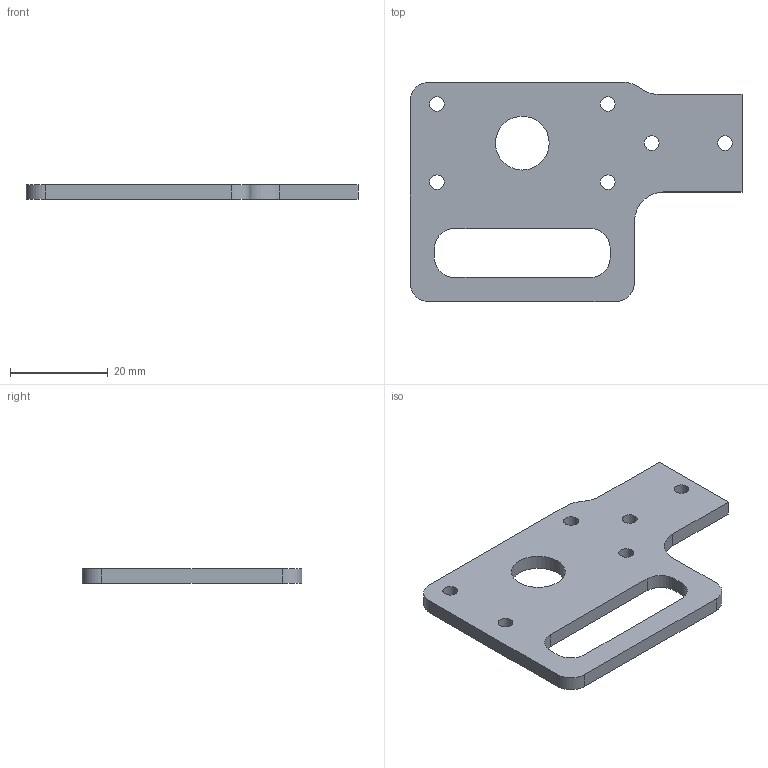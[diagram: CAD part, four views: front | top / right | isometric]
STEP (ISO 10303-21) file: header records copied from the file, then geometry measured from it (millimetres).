
FILE_DESCRIPTION(/* description */ (''),/* implementation_level */ '2;1');
FILE_NAME(/* name */ 'C:/Users/Ulises/Desktop/T1/mecanica_cad/soporte_stepper_polea.step',/* time_stamp */ '2020-10-16T01:28:37-03:00',/* author */ (''),/* organization */ (''),/* preprocessor_version */ 'ST-DEVELOPER v18.1',/* originating_system */ 'Autodesk Translation Framework v9.3.0.1241',/* authorisation */ '');
FILE_SCHEMA (('AUTOMOTIVE_DESIGN { 1 0 10303 214 3 1 1 }'));
Length unit declared in the file: millimetre
Products named in the file (1): soporte_stepper_polea
Bounding box: 68 x 45 x 3 mm (x, y, z)
Volume: 6080.2 mm3; surface area: 5231.2 mm2
Topology: 1 solids, 1 shells, 30 faces, 84 edges, 56 vertices
Faces by surface type: cylinder 17, plane 13
Full cylindrical faces by diameter (mm): 3 x6, 11 x1
Entity records: 1054 total; most frequent: DIRECTION 180, CARTESIAN_POINT 171, ORIENTED_EDGE 168, EDGE_CURVE 84, AXIS2_PLACEMENT_3D 65, VERTEX_POINT 56, LINE 50, VECTOR 50
